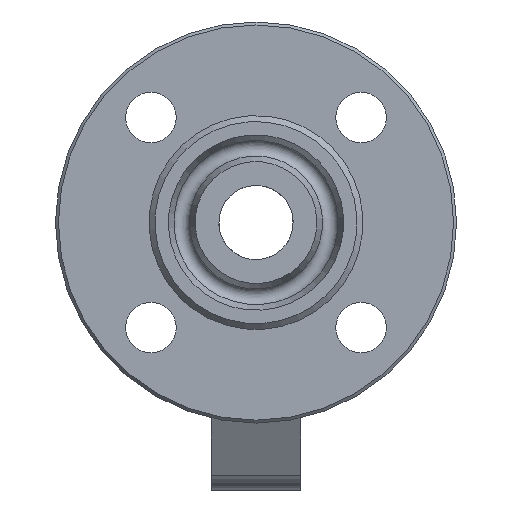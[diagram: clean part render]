
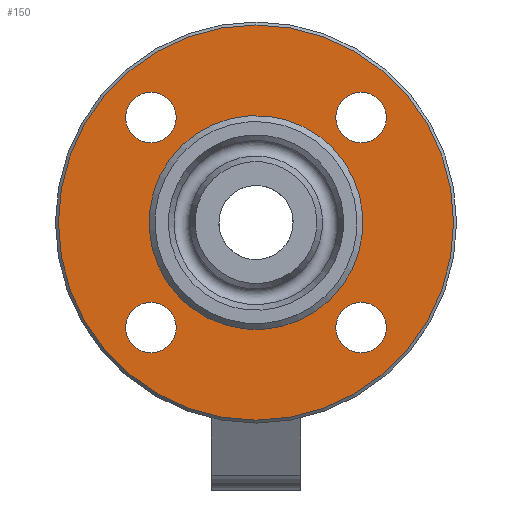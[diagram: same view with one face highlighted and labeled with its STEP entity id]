
A CAD part, left-side view. The second image highlights one B-rep face of the part: STEP entity #150.
In plain terms, the highlighted planar face has unit normal (-1, 0, 0).
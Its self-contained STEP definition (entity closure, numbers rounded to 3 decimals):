
#150=ADVANCED_FACE('',(#1216,#1218,#1220,#1222,#1224,#1226),#1228,.T.);
#1216=FACE_BOUND('',#1217,.T.);
#1217=EDGE_LOOP('',(#2176));
#1218=FACE_BOUND('',#1219,.T.);
#1219=EDGE_LOOP('',(#2177));
#1220=FACE_BOUND('',#1221,.T.);
#1221=EDGE_LOOP('',(#2178));
#1222=FACE_BOUND('',#1223,.T.);
#1223=EDGE_LOOP('',(#2179));
#1224=FACE_BOUND('',#1225,.T.);
#1225=EDGE_LOOP('',(#2180));
#1226=FACE_OUTER_BOUND('',#1227,.T.);
#1227=EDGE_LOOP('',(#2181));
#1228=PLANE('',#1229);
#1229=AXIS2_PLACEMENT_3D('',#1230,#1231,#1232);
#1230=CARTESIAN_POINT('',(-77.,0.,0.));
#1231=DIRECTION('',(-1.,0.,0.));
#1232=DIRECTION('',(0.,0.,1.));
#2176=ORIENTED_EDGE('',*,*,#3155,.T.);
#2177=ORIENTED_EDGE('',*,*,#3154,.T.);
#2178=ORIENTED_EDGE('',*,*,#3152,.T.);
#2179=ORIENTED_EDGE('',*,*,#3150,.T.);
#2180=ORIENTED_EDGE('',*,*,#3172,.T.);
#2181=ORIENTED_EDGE('',*,*,#3173,.F.);
#3150=EDGE_CURVE('',#3503,#3503,#3505,.F.);
#3152=EDGE_CURVE('',#3506,#3506,#3508,.F.);
#3154=EDGE_CURVE('',#3509,#3509,#3511,.F.);
#3155=EDGE_CURVE('',#3512,#3512,#3513,.F.);
#3172=EDGE_CURVE('',#3543,#3543,#3544,.T.);
#3173=EDGE_CURVE('',#3545,#3545,#3546,.T.);
#3503=VERTEX_POINT('',#4638);
#3505=CIRCLE('',#4642,8.5);
#3506=VERTEX_POINT('',#4646);
#3508=CIRCLE('',#4650,8.5);
#3509=VERTEX_POINT('',#4654);
#3511=CIRCLE('',#4658,8.5);
#3512=VERTEX_POINT('',#4662);
#3513=CIRCLE('',#4663,8.5);
#3543=VERTEX_POINT('',#5048);
#3544=CIRCLE('',#5049,36.);
#3545=VERTEX_POINT('',#5053);
#3546=CIRCLE('',#5054,66.5);
#4638=CARTESIAN_POINT('',(-77.,35.355,43.855));
#4642=AXIS2_PLACEMENT_3D('',#4643,#4644,#4645);
#4643=CARTESIAN_POINT('',(-77.,35.355,35.355));
#4644=DIRECTION('',(-1.,0.,0.));
#4645=DIRECTION('',(0.,0.,1.));
#4646=CARTESIAN_POINT('',(-77.,-43.855,35.355));
#4650=AXIS2_PLACEMENT_3D('',#4651,#4652,#4653);
#4651=CARTESIAN_POINT('',(-77.,-35.355,35.355));
#4652=DIRECTION('',(-1.,0.,0.));
#4653=DIRECTION('',(0.,-1.,0.));
#4654=CARTESIAN_POINT('',(-77.,-35.355,-43.855));
#4658=AXIS2_PLACEMENT_3D('',#4659,#4660,#4661);
#4659=CARTESIAN_POINT('',(-77.,-35.355,-35.355));
#4660=DIRECTION('',(-1.,0.,0.));
#4661=DIRECTION('',(0.,0.,-1.));
#4662=CARTESIAN_POINT('',(-77.,43.855,-35.355));
#4663=AXIS2_PLACEMENT_3D('',#4664,#4665,#4666);
#4664=CARTESIAN_POINT('',(-77.,35.355,-35.355));
#4665=DIRECTION('',(-1.,0.,0.));
#4666=DIRECTION('',(0.,1.,0.));
#5048=CARTESIAN_POINT('',(-77.,-29.872,20.091));
#5049=AXIS2_PLACEMENT_3D('',#5050,#5051,#5052);
#5050=CARTESIAN_POINT('',(-77.,0.,0.));
#5051=DIRECTION('',(1.,0.,0.));
#5052=DIRECTION('',(0.,-0.83,0.558));
#5053=CARTESIAN_POINT('',(-77.,0.,66.5));
#5054=AXIS2_PLACEMENT_3D('',#5055,#5056,#5057);
#5055=CARTESIAN_POINT('',(-77.,0.,0.));
#5056=DIRECTION('',(1.,0.,0.));
#5057=DIRECTION('',(0.,0.,1.));
